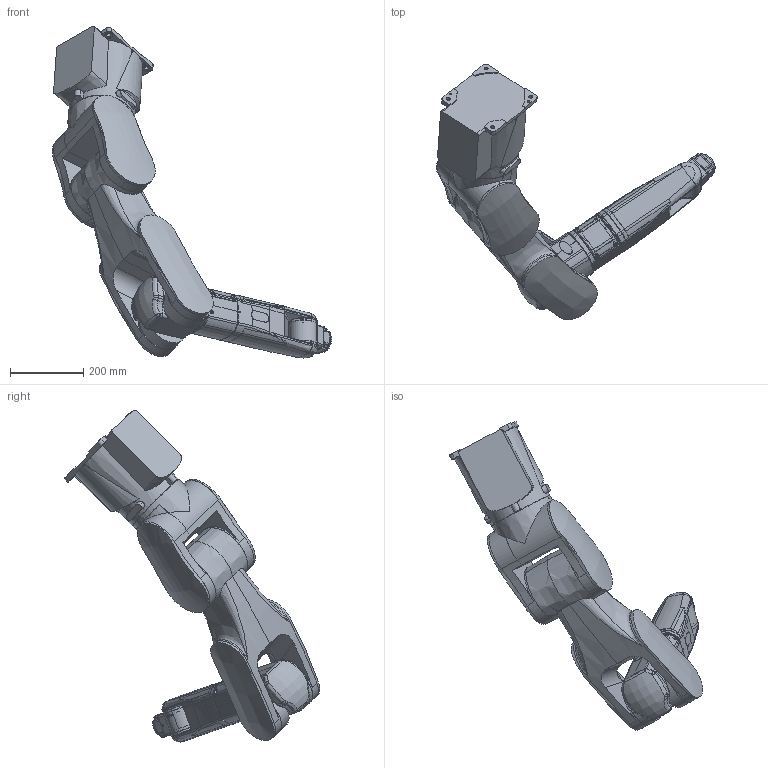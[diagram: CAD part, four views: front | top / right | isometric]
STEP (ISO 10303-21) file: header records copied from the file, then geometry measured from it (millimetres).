
FILE_DESCRIPTION (( 'STEP AP203' ), '1' );
FILE_NAME ('HH7.STEP', '2020-06-15T01:35:52', ( 'fulluser' ), ( '' ), 'SwSTEP 2.0', 'SolidWorks 2017', '' );
FILE_SCHEMA (( 'CONFIG_CONTROL_DESIGN' ));
Length unit declared in the file: millimetre
Products named in the file (11): V3SHF-20-50-2SH-SPK1895; base frame; mechanical interfarce_1; HH7; HH7 V3ARM_PIPE_ASSY; upper frame_1; arm frame_1; wrist holder_1; wrist body_1; V3CSG-14-50-2A-R-SPK1892; lower frame_1
Assembly tree (10 placements, depth 2):
  HH7
    arm frame_1
    HH7 V3ARM_PIPE_ASSY
    base frame
    lower frame_1
    mechanical interfarce_1
    upper frame_1
    wrist body_1
    wrist holder_1
    V3SHF-20-50-2SH-SPK1895
    V3CSG-14-50-2A-R-SPK1892
Bounding box: 761.11 x 695.9 x 904.54 mm (x, y, z)
Volume: 27610087.3 mm3; surface area: 2309682.6 mm2
Topology: 36 solids, 64 shells, 3443 faces, 8188 edges, 4934 vertices
Faces by surface type: cylinder 1350, plane 855, bspline 787, cone 399, torus 52
Entity records: 130447 total; most frequent: CARTESIAN_POINT 53859, ORIENTED_EDGE 15877, DIRECTION 15587, EDGE_CURVE 7940, AXIS2_PLACEMENT_3D 6379, VERTEX_POINT 4934, EDGE_LOOP 3935, CIRCLE 3709
